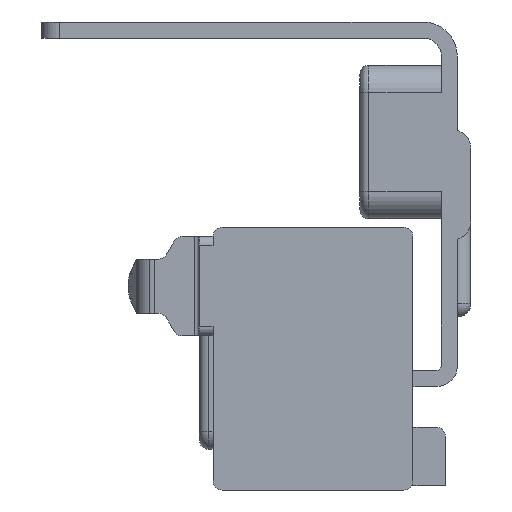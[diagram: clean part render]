
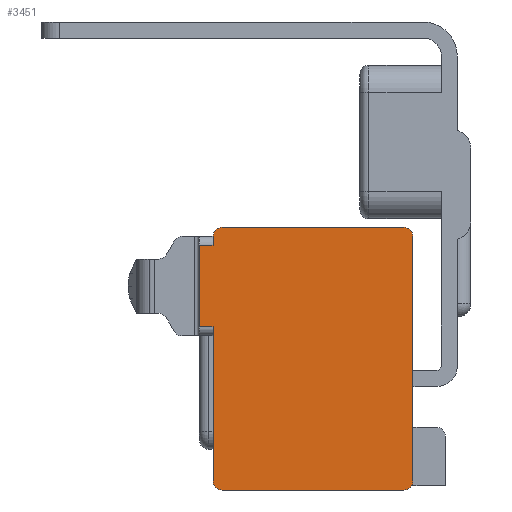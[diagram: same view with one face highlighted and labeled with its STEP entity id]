
A CAD part, left-side view. The second image highlights one B-rep face of the part: STEP entity #3451.
In plain terms, the highlighted planar face has unit normal (-1, 0, 0).
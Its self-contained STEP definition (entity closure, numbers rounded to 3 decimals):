
#211 = VECTOR ( 'NONE', #503, 1000. ) ;
#257 = DIRECTION ( 'NONE',  ( 0., -1., 0. ) ) ;
#288 = EDGE_CURVE ( 'NONE', #3612, #1576, #6446, .T. ) ;
#293 = ORIENTED_EDGE ( 'NONE', *, *, #2401, .T. ) ;
#364 = FACE_OUTER_BOUND ( 'NONE', #2075, .T. ) ;
#461 = CARTESIAN_POINT ( 'NONE',  ( -383., 5.9, -11.43 ) ) ;
#503 = DIRECTION ( 'NONE',  ( 0., 0., -1. ) ) ;
#561 = CARTESIAN_POINT ( 'NONE',  ( -383., 28.5, 16.6 ) ) ;
#562 = VECTOR ( 'NONE', #3047, 1000. ) ;
#729 = ORIENTED_EDGE ( 'NONE', *, *, #2590, .T. ) ;
#815 = AXIS2_PLACEMENT_3D ( 'NONE', #3923, #3890, #3310 ) ;
#822 = CARTESIAN_POINT ( 'NONE',  ( -383., 28.5, 15.6 ) ) ;
#858 = AXIS2_PLACEMENT_3D ( 'NONE', #3326, #7218, #3908 ) ;
#1017 = CARTESIAN_POINT ( 'NONE',  ( -383., 27., -10.43 ) ) ;
#1057 = ORIENTED_EDGE ( 'NONE', *, *, #6967, .T. ) ;
#1149 = VERTEX_POINT ( 'NONE', #2879 ) ;
#1162 = VECTOR ( 'NONE', #2921, 1000. ) ;
#1254 = VERTEX_POINT ( 'NONE', #4472 ) ;
#1404 = CARTESIAN_POINT ( 'NONE',  ( -383., 4.9, -10.43 ) ) ;
#1499 = LINE ( 'NONE', #4611, #1162 ) ;
#1576 = VERTEX_POINT ( 'NONE', #4758 ) ;
#1578 = VERTEX_POINT ( 'NONE', #4571 ) ;
#1661 = VERTEX_POINT ( 'NONE', #1404 ) ;
#1753 = ORIENTED_EDGE ( 'NONE', *, *, #5234, .T. ) ;
#1853 = LINE ( 'NONE', #1017, #211 ) ;
#1942 = CARTESIAN_POINT ( 'NONE',  ( -383., 27., 16.6 ) ) ;
#1980 = CARTESIAN_POINT ( 'NONE',  ( -383., 5.9, -11.43 ) ) ;
#2010 = VERTEX_POINT ( 'NONE', #5031 ) ;
#2016 = CIRCLE ( 'NONE', #815, 1. ) ;
#2075 = EDGE_LOOP ( 'NONE', ( #4079, #3452, #2923, #6857, #7092, #293, #729, #1057, #1753, #2533, #3086, #4410 ) ) ;
#2199 = EDGE_CURVE ( 'NONE', #1578, #1254, #5831, .T. ) ;
#2263 = DIRECTION ( 'NONE',  ( 1., 0., 0. ) ) ;
#2401 = EDGE_CURVE ( 'NONE', #4685, #5380, #4426, .T. ) ;
#2533 = ORIENTED_EDGE ( 'NONE', *, *, #5754, .T. ) ;
#2560 = EDGE_CURVE ( 'NONE', #3269, #1661, #2016, .T. ) ;
#2590 = EDGE_CURVE ( 'NONE', #5380, #1149, #1853, .T. ) ;
#2775 = DIRECTION ( 'NONE',  ( 0., 0., 1. ) ) ;
#2879 = CARTESIAN_POINT ( 'NONE',  ( -383., 27., 15.6 ) ) ;
#2921 = DIRECTION ( 'NONE',  ( 0., 0., -1. ) ) ;
#2923 = ORIENTED_EDGE ( 'NONE', *, *, #3660, .T. ) ;
#3041 = CARTESIAN_POINT ( 'NONE',  ( -383., 28.5, 15.6 ) ) ;
#3047 = DIRECTION ( 'NONE',  ( 0., -1., 0. ) ) ;
#3086 = ORIENTED_EDGE ( 'NONE', *, *, #2199, .T. ) ;
#3212 = LINE ( 'NONE', #822, #6193 ) ;
#3269 = VERTEX_POINT ( 'NONE', #461 ) ;
#3310 = DIRECTION ( 'NONE',  ( 0., 1., 0. ) ) ;
#3326 = CARTESIAN_POINT ( 'NONE',  ( -383., 26., -10.43 ) ) ;
#3451 = ADVANCED_FACE ( 'NONE', ( #364 ), #4366, .F. ) ;
#3452 = ORIENTED_EDGE ( 'NONE', *, *, #2560, .T. ) ;
#3548 = DIRECTION ( 'NONE',  ( 0., 0., -1. ) ) ;
#3593 = AXIS2_PLACEMENT_3D ( 'NONE', #4915, #4375, #4352 ) ;
#3612 = VERTEX_POINT ( 'NONE', #6112 ) ;
#3660 = EDGE_CURVE ( 'NONE', #1661, #3612, #6320, .T. ) ;
#3711 = LINE ( 'NONE', #5856, #562 ) ;
#3765 = EDGE_CURVE ( 'NONE', #2010, #3269, #5810, .T. ) ;
#3805 = CARTESIAN_POINT ( 'NONE',  ( -383., 27., -10.43 ) ) ;
#3890 = DIRECTION ( 'NONE',  ( -1., 0., 0. ) ) ;
#3908 = DIRECTION ( 'NONE',  ( 0., 1., 0. ) ) ;
#3923 = CARTESIAN_POINT ( 'NONE',  ( -383., 5.9, -10.43 ) ) ;
#4079 = ORIENTED_EDGE ( 'NONE', *, *, #3765, .T. ) ;
#4302 = CARTESIAN_POINT ( 'NONE',  ( -383., 26., 17.6 ) ) ;
#4339 = VECTOR ( 'NONE', #3548, 1000. ) ;
#4352 = DIRECTION ( 'NONE',  ( 0., 1., 0. ) ) ;
#4366 = PLANE ( 'NONE',  #7047 ) ;
#4372 = CARTESIAN_POINT ( 'NONE',  ( -383., 28.5, 6.6 ) ) ;
#4375 = DIRECTION ( 'NONE',  ( -1., 0., 0. ) ) ;
#4410 = ORIENTED_EDGE ( 'NONE', *, *, #4846, .T. ) ;
#4426 = CIRCLE ( 'NONE', #3593, 1. ) ;
#4472 = CARTESIAN_POINT ( 'NONE',  ( -383., 27., -10.43 ) ) ;
#4506 = VERTEX_POINT ( 'NONE', #3041 ) ;
#4571 = CARTESIAN_POINT ( 'NONE',  ( -383., 27., 6.6 ) ) ;
#4611 = CARTESIAN_POINT ( 'NONE',  ( -383., 28.5, 16.6 ) ) ;
#4685 = VERTEX_POINT ( 'NONE', #4302 ) ;
#4755 = DIRECTION ( 'NONE',  ( 0., 1., 0. ) ) ;
#4758 = CARTESIAN_POINT ( 'NONE',  ( -383., 5.9, 17.6 ) ) ;
#4760 = VERTEX_POINT ( 'NONE', #4372 ) ;
#4790 = DIRECTION ( 'NONE',  ( 0., 0., 1. ) ) ;
#4845 = VECTOR ( 'NONE', #4790, 1000. ) ;
#4846 = EDGE_CURVE ( 'NONE', #1254, #2010, #6386, .T. ) ;
#4915 = CARTESIAN_POINT ( 'NONE',  ( -383., 26., 16.6 ) ) ;
#5031 = CARTESIAN_POINT ( 'NONE',  ( -383., 26., -11.43 ) ) ;
#5234 = EDGE_CURVE ( 'NONE', #4506, #4760, #1499, .T. ) ;
#5380 = VERTEX_POINT ( 'NONE', #1942 ) ;
#5510 = CARTESIAN_POINT ( 'NONE',  ( -383., 4.9, 16.6 ) ) ;
#5626 = VECTOR ( 'NONE', #257, 1000. ) ;
#5754 = EDGE_CURVE ( 'NONE', #4760, #1578, #3711, .T. ) ;
#5798 = EDGE_CURVE ( 'NONE', #1576, #4685, #6337, .T. ) ;
#5810 = LINE ( 'NONE', #1980, #5626 ) ;
#5831 = LINE ( 'NONE', #3805, #4339 ) ;
#5856 = CARTESIAN_POINT ( 'NONE',  ( -383., 28.5, 6.6 ) ) ;
#5877 = DIRECTION ( 'NONE',  ( 0., 1., 0. ) ) ;
#6112 = CARTESIAN_POINT ( 'NONE',  ( -383., 4.9, 16.6 ) ) ;
#6170 = VECTOR ( 'NONE', #5877, 1000. ) ;
#6193 = VECTOR ( 'NONE', #4755, 1000. ) ;
#6307 = AXIS2_PLACEMENT_3D ( 'NONE', #7052, #7085, #7114 ) ;
#6320 = LINE ( 'NONE', #5510, #4845 ) ;
#6337 = LINE ( 'NONE', #6412, #6170 ) ;
#6386 = CIRCLE ( 'NONE', #858, 1. ) ;
#6412 = CARTESIAN_POINT ( 'NONE',  ( -383., 5.9, 17.6 ) ) ;
#6446 = CIRCLE ( 'NONE', #6307, 1. ) ;
#6857 = ORIENTED_EDGE ( 'NONE', *, *, #288, .T. ) ;
#6967 = EDGE_CURVE ( 'NONE', #1149, #4506, #3212, .T. ) ;
#7047 = AXIS2_PLACEMENT_3D ( 'NONE', #561, #2263, #2775 ) ;
#7052 = CARTESIAN_POINT ( 'NONE',  ( -383., 5.9, 16.6 ) ) ;
#7085 = DIRECTION ( 'NONE',  ( -1., 0., 0. ) ) ;
#7092 = ORIENTED_EDGE ( 'NONE', *, *, #5798, .T. ) ;
#7114 = DIRECTION ( 'NONE',  ( 0., 1., 0. ) ) ;
#7218 = DIRECTION ( 'NONE',  ( -1., 0., 0. ) ) ;
